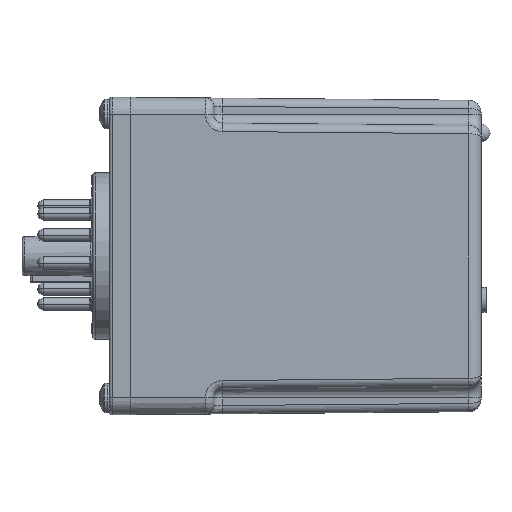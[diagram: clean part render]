
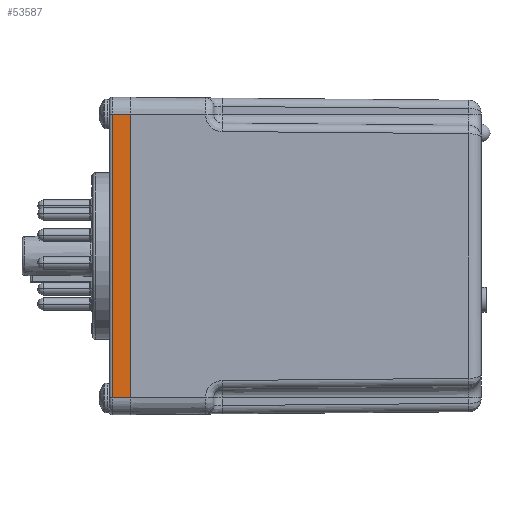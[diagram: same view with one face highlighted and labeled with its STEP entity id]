
A CAD part, left-side view. The second image highlights one B-rep face of the part: STEP entity #53587.
In plain terms, the highlighted planar face has unit normal (1, 0, 0).
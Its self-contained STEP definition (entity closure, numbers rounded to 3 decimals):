
#31704 = CYLINDRICAL_SURFACE('',#31705,0.508);
#31705 = AXIS2_PLACEMENT_3D('',#31706,#31707,#31708);
#31706 = CARTESIAN_POINT('',(21.717,1.473,30.163));
#31707 = DIRECTION('',(0.,0.,-1.));
#31708 = DIRECTION('',(-1.,0.,0.));
#32314 = PLANE('',#32315);
#32315 = AXIS2_PLACEMENT_3D('',#32316,#32317,#32318);
#32316 = CARTESIAN_POINT('',(22.225,-1.981,30.163));
#32317 = DIRECTION('',(0.,1.,0.));
#32318 = DIRECTION('',(-1.,0.,0.));
#38708 = VERTEX_POINT('',#38709);
#38709 = CARTESIAN_POINT('',(22.225,-1.981,-26.988));
#38728 = CYLINDRICAL_SURFACE('',#38729,3.175);
#38729 = AXIS2_PLACEMENT_3D('',#38730,#38731,#38732);
#38730 = CARTESIAN_POINT('',(19.05,-1.981,-26.988));
#38731 = DIRECTION('',(0.,1.,0.));
#38732 = DIRECTION('',(0.,0.,1.));
#38740 = EDGE_CURVE('',#38741,#38708,#38743,.T.);
#38741 = VERTEX_POINT('',#38742);
#38742 = CARTESIAN_POINT('',(22.225,-1.981,26.988));
#38743 = SURFACE_CURVE('',#38744,(#38748,#38755),.PCURVE_S1.);
#38744 = LINE('',#38745,#38746);
#38745 = CARTESIAN_POINT('',(22.225,-1.981,30.163));
#38746 = VECTOR('',#38747,1.);
#38747 = DIRECTION('',(-0.,-0.,-1.));
#38748 = PCURVE('',#32314,#38749);
#38749 = DEFINITIONAL_REPRESENTATION('',(#38750),#38754);
#38750 = LINE('',#38751,#38752);
#38751 = CARTESIAN_POINT('',(0.,0.));
#38752 = VECTOR('',#38753,1.);
#38753 = DIRECTION('',(0.,-1.));
#38754 = ( GEOMETRIC_REPRESENTATION_CONTEXT(2) 
PARAMETRIC_REPRESENTATION_CONTEXT() REPRESENTATION_CONTEXT('2D SPACE',''
  ) );
#38755 = PCURVE('',#38756,#38761);
#38756 = PLANE('',#38757);
#38757 = AXIS2_PLACEMENT_3D('',#38758,#38759,#38760);
#38758 = CARTESIAN_POINT('',(22.225,-1.981,30.163));
#38759 = DIRECTION('',(-1.,0.,0.));
#38760 = DIRECTION('',(0.,0.,1.));
#38761 = DEFINITIONAL_REPRESENTATION('',(#38762),#38766);
#38762 = LINE('',#38763,#38764);
#38763 = CARTESIAN_POINT('',(0.,0.));
#38764 = VECTOR('',#38765,1.);
#38765 = DIRECTION('',(-1.,0.));
#38766 = ( GEOMETRIC_REPRESENTATION_CONTEXT(2) 
PARAMETRIC_REPRESENTATION_CONTEXT() REPRESENTATION_CONTEXT('2D SPACE',''
  ) );
#38787 = CYLINDRICAL_SURFACE('',#38788,3.175);
#38788 = AXIS2_PLACEMENT_3D('',#38789,#38790,#38791);
#38789 = CARTESIAN_POINT('',(19.05,1.981,26.988));
#38790 = DIRECTION('',(0.,-1.,0.));
#38791 = DIRECTION('',(0.,0.,-1.));
#53587 = ADVANCED_FACE('',(#53588),#38756,.F.);
#53588 = FACE_BOUND('',#53589,.T.);
#53589 = EDGE_LOOP('',(#53590,#53613,#53636,#53657));
#53590 = ORIENTED_EDGE('',*,*,#53591,.T.);
#53591 = EDGE_CURVE('',#38708,#53592,#53594,.T.);
#53592 = VERTEX_POINT('',#53593);
#53593 = CARTESIAN_POINT('',(22.225,1.473,-26.988));
#53594 = SURFACE_CURVE('',#53595,(#53599,#53606),.PCURVE_S1.);
#53595 = LINE('',#53596,#53597);
#53596 = CARTESIAN_POINT('',(22.225,-1.981,-26.988));
#53597 = VECTOR('',#53598,1.);
#53598 = DIRECTION('',(0.,1.,0.));
#53599 = PCURVE('',#38756,#53600);
#53600 = DEFINITIONAL_REPRESENTATION('',(#53601),#53605);
#53601 = LINE('',#53602,#53603);
#53602 = CARTESIAN_POINT('',(-57.15,0.));
#53603 = VECTOR('',#53604,1.);
#53604 = DIRECTION('',(0.,1.));
#53605 = ( GEOMETRIC_REPRESENTATION_CONTEXT(2) 
PARAMETRIC_REPRESENTATION_CONTEXT() REPRESENTATION_CONTEXT('2D SPACE',''
  ) );
#53606 = PCURVE('',#38728,#53607);
#53607 = DEFINITIONAL_REPRESENTATION('',(#53608),#53612);
#53608 = LINE('',#53609,#53610);
#53609 = CARTESIAN_POINT('',(1.571,0.));
#53610 = VECTOR('',#53611,1.);
#53611 = DIRECTION('',(0.,1.));
#53612 = ( GEOMETRIC_REPRESENTATION_CONTEXT(2) 
PARAMETRIC_REPRESENTATION_CONTEXT() REPRESENTATION_CONTEXT('2D SPACE',''
  ) );
#53613 = ORIENTED_EDGE('',*,*,#53614,.T.);
#53614 = EDGE_CURVE('',#53592,#53615,#53617,.T.);
#53615 = VERTEX_POINT('',#53616);
#53616 = CARTESIAN_POINT('',(22.225,1.473,26.988));
#53617 = SURFACE_CURVE('',#53618,(#53622,#53629),.PCURVE_S1.);
#53618 = LINE('',#53619,#53620);
#53619 = CARTESIAN_POINT('',(22.225,1.473,30.163));
#53620 = VECTOR('',#53621,1.);
#53621 = DIRECTION('',(0.,0.,1.));
#53622 = PCURVE('',#38756,#53623);
#53623 = DEFINITIONAL_REPRESENTATION('',(#53624),#53628);
#53624 = LINE('',#53625,#53626);
#53625 = CARTESIAN_POINT('',(0.,3.454));
#53626 = VECTOR('',#53627,1.);
#53627 = DIRECTION('',(1.,0.));
#53628 = ( GEOMETRIC_REPRESENTATION_CONTEXT(2) 
PARAMETRIC_REPRESENTATION_CONTEXT() REPRESENTATION_CONTEXT('2D SPACE',''
  ) );
#53629 = PCURVE('',#31704,#53630);
#53630 = DEFINITIONAL_REPRESENTATION('',(#53631),#53635);
#53631 = LINE('',#53632,#53633);
#53632 = CARTESIAN_POINT('',(3.142,0.));
#53633 = VECTOR('',#53634,1.);
#53634 = DIRECTION('',(0.,-1.));
#53635 = ( GEOMETRIC_REPRESENTATION_CONTEXT(2) 
PARAMETRIC_REPRESENTATION_CONTEXT() REPRESENTATION_CONTEXT('2D SPACE',''
  ) );
#53636 = ORIENTED_EDGE('',*,*,#53637,.T.);
#53637 = EDGE_CURVE('',#53615,#38741,#53638,.T.);
#53638 = SURFACE_CURVE('',#53639,(#53643,#53650),.PCURVE_S1.);
#53639 = LINE('',#53640,#53641);
#53640 = CARTESIAN_POINT('',(22.225,-1.981,26.988));
#53641 = VECTOR('',#53642,1.);
#53642 = DIRECTION('',(-0.,-1.,-0.));
#53643 = PCURVE('',#38756,#53644);
#53644 = DEFINITIONAL_REPRESENTATION('',(#53645),#53649);
#53645 = LINE('',#53646,#53647);
#53646 = CARTESIAN_POINT('',(-3.175,0.));
#53647 = VECTOR('',#53648,1.);
#53648 = DIRECTION('',(0.,-1.));
#53649 = ( GEOMETRIC_REPRESENTATION_CONTEXT(2) 
PARAMETRIC_REPRESENTATION_CONTEXT() REPRESENTATION_CONTEXT('2D SPACE',''
  ) );
#53650 = PCURVE('',#38787,#53651);
#53651 = DEFINITIONAL_REPRESENTATION('',(#53652),#53656);
#53652 = LINE('',#53653,#53654);
#53653 = CARTESIAN_POINT('',(1.571,3.962));
#53654 = VECTOR('',#53655,1.);
#53655 = DIRECTION('',(0.,1.));
#53656 = ( GEOMETRIC_REPRESENTATION_CONTEXT(2) 
PARAMETRIC_REPRESENTATION_CONTEXT() REPRESENTATION_CONTEXT('2D SPACE',''
  ) );
#53657 = ORIENTED_EDGE('',*,*,#38740,.T.);
